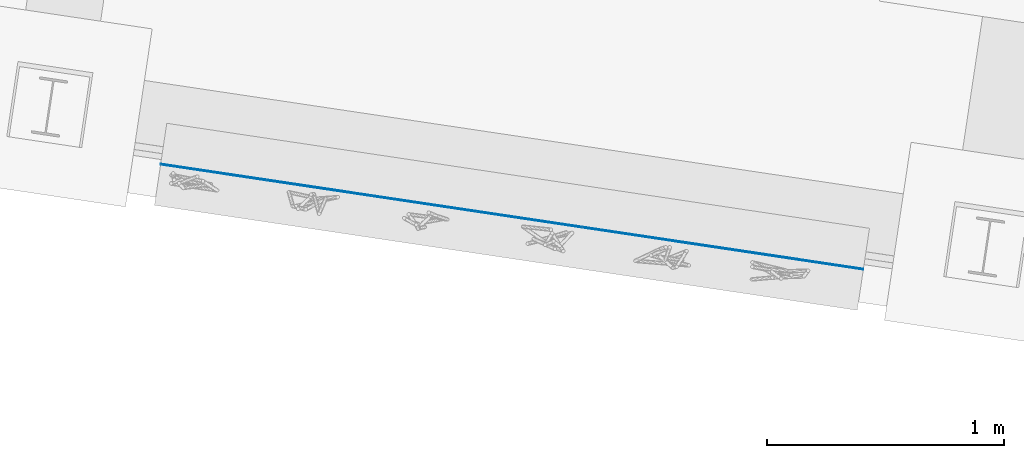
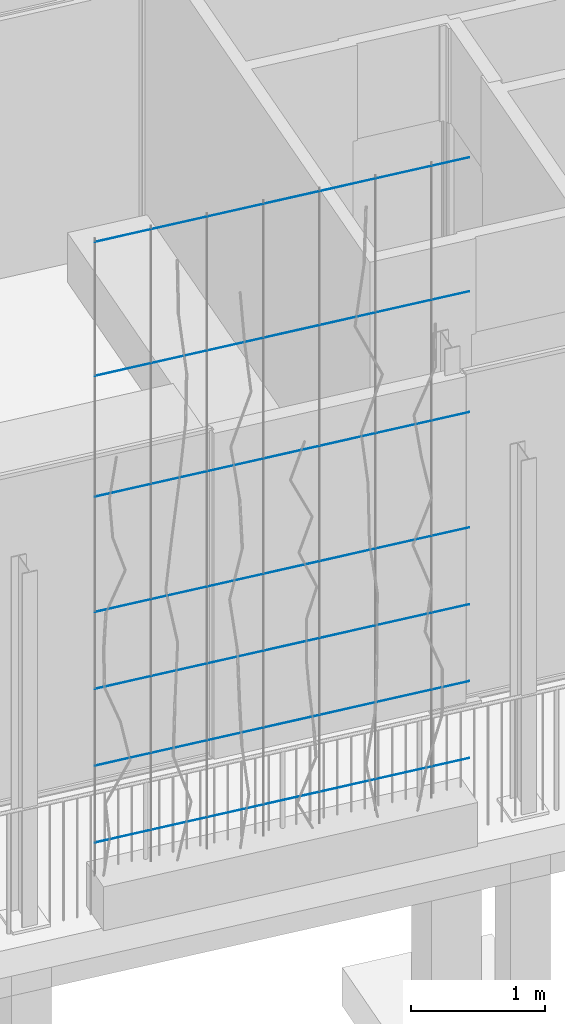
# One storey, part 52 of 143: 7 members, 1 element without a shape of its own.
"""IFC4 building model written with IfcOpenShell, lengths in metres."""

import ifcopenshell
import ifcopenshell.guid

model = None  # the IFC model being written
_history = None  # IfcOwnerHistory: only IFC2X3 demands one
_inside = {}  # id of a spatial element -> (the spatial element, [elements in it])
_under = {}  # id of a project, library or spatial element -> (it, [spatial elements below it])
_declared = {}  # id of a project -> (the project, [libraries it declares])
_typed = {}  # id of a type object -> (the type object, [elements of that type])
_made_of = {}  # id of a material, layer set ... -> (it, [elements and type objects made of it])


def new_model(schema):
    """Start an empty IFC model of exactly this schema.

    Asked for "IFC4X3", IfcOpenShell would pick the latest addendum, in which some entities
    have other attributes; the version numbers below select the first issue.
    IFC2X3 requires an IfcOwnerHistory on every rooted entity: one is made here for all.
    """
    global model, _history
    if schema == "IFC4X3":
        model = ifcopenshell.file(schema_version=(4, 3, 0, 0))
    else:
        model = ifcopenshell.file(schema=schema)
    _inside.clear()
    _under.clear()
    _declared.clear()
    _typed.clear()
    _made_of.clear()
    _history = None
    if model.schema == "IFC2X3":
        org = make("IfcOrganization", Name="unknown")
        user = make(
            "IfcPersonAndOrganization",
            ThePerson=make("IfcPerson", FamilyName="unknown"),
            TheOrganization=org,
        )
        app = make(
            "IfcApplication",
            ApplicationDeveloper=org,
            Version="unknown",
            ApplicationFullName="unknown",
            ApplicationIdentifier="unknown",
        )
        _history = make(
            "IfcOwnerHistory",
            OwningUser=user,
            OwningApplication=app,
            ChangeAction="ADDED",
            CreationDate=0,
        )
    return model


def make(cls, **values):
    """One entity of the class cls with the attributes given. An attribute that is None is left unset."""
    return model.create_entity(
        cls, **{name: value for name, value in values.items() if value is not None}
    )


def rooted(cls, **values):
    """An entity with a GlobalId (a new one), such as an element, a storey or a relation."""
    return make(cls, GlobalId=ifcopenshell.guid.new(), OwnerHistory=_history, **values)


def si_unit(unit_type, name, prefix=None):
    """IfcSIUnit, for example si_unit("LENGTHUNIT", "METRE", prefix="MILLI")."""
    return make("IfcSIUnit", UnitType=unit_type, Prefix=prefix, Name=name)


def assignment(units):
    """IfcUnitAssignment: the units of a project."""
    return None if units is None else make("IfcUnitAssignment", Units=units)


def point(xyz):
    """IfcCartesianPoint."""
    return None if xyz is None else make("IfcCartesianPoint", Coordinates=xyz)


def direction(xyz):
    """IfcDirection."""
    return None if xyz is None else make("IfcDirection", DirectionRatios=xyz)


def frame(location, z_axis=None, x_axis=None):
    """IfcAxis2Placement3D, a coordinate frame: its origin and axes. An axis left out is left unset."""
    return make(
        "IfcAxis2Placement3D",
        Location=point(location),
        Axis=direction(z_axis),
        RefDirection=direction(x_axis),
    )


def origin_with_axes():
    """The frame at (0, 0, 0) with the z axis (0, 0, 1) and the x axis (1, 0, 0) written out."""
    return frame((0.0, 0.0, 0.0), z_axis=(0.0, 0.0, 1.0), x_axis=(1.0, 0.0, 0.0))


def place(relative_to, where):
    """IfcLocalPlacement: puts the frame where relative to a parent placement (None: the world)."""
    return make(
        "IfcLocalPlacement", PlacementRelTo=relative_to, RelativePlacement=where
    )


def context(
    kind, dimensions, precision=None, world=None, true_north=None, identifier=None
):
    """IfcGeometricRepresentationContext, for example the 3D "Model" context."""
    return make(
        "IfcGeometricRepresentationContext",
        ContextIdentifier=identifier,
        ContextType=kind,
        CoordinateSpaceDimension=dimensions,
        Precision=precision,
        WorldCoordinateSystem=world,
        TrueNorth=true_north,
    )


def subcontext(parent, identifier, kind, view, scale=None):
    """IfcGeometricRepresentationSubContext, for example "Body" below "Model"."""
    return make(
        "IfcGeometricRepresentationSubContext",
        ContextIdentifier=identifier,
        ContextType=kind,
        ParentContext=parent,
        TargetScale=scale,
        TargetView=view,
    )


def project(units=None, contexts=None):
    """IfcProject with its units and contexts."""
    return rooted(
        "IfcProject",
        Name="project",
        RepresentationContexts=contexts,
        UnitsInContext=assignment(units),
    )


def spatial(cls, under=None, at=None, **own):
    """A site, building, storey or space (cls), placed at a placement, below another one or the project."""
    s = rooted(cls, ObjectPlacement=at, **own)
    if under is not None:
        _under.setdefault(under.id(), (under, []))[1].append(s)
    return s


def profile(cls, at=None, kind="AREA", **sizes):
    """A parametric profile (cls). Its sizes go by their IFC names, for example OverallWidth=200.0."""
    return make(cls, ProfileType=kind, Position=at, **sizes)


def circle(**sizes):
    """IfcCircleProfileDef."""
    return profile("IfcCircleProfileDef", **sizes)


def extrude(swept, where, along, depth):
    """IfcExtrudedAreaSolid: the profile swept, set in the frame where, extruded along a direction by depth."""
    return make(
        "IfcExtrudedAreaSolid",
        SweptArea=swept,
        Position=where,
        ExtrudedDirection=direction(along),
        Depth=depth,
    )


def shape(context_of_items, identifier, shape_type, items):
    """IfcShapeRepresentation: the items that make up one representation, for example the "Body"."""
    return make(
        "IfcShapeRepresentation",
        ContextOfItems=context_of_items,
        RepresentationIdentifier=identifier,
        RepresentationType=shape_type,
        Items=items,
    )


def material(Name=None, Category=None):
    """IfcMaterial."""
    return make("IfcMaterial", Name=Name, Category=Category)


def material_profile(
    of_material, cross_section, Name=None, Category=None, Priority=None
):
    """IfcMaterialProfile: a cross section and its material."""
    return make(
        "IfcMaterialProfile",
        Name=Name,
        Material=of_material,
        Profile=cross_section,
        Priority=Priority,
        Category=Category,
    )


def profile_set(profiles, Name=None, composite=None):
    """IfcMaterialProfileSet."""
    return make(
        "IfcMaterialProfileSet",
        Name=Name,
        MaterialProfiles=profiles,
        CompositeProfile=composite,
    )


def profile_usage(for_profile_set, cardinal=None, extent=None):
    """IfcMaterialProfileSetUsage: how a profile set lies along its element."""
    return make(
        "IfcMaterialProfileSetUsage",
        ForProfileSet=for_profile_set,
        CardinalPoint=cardinal,
        ReferenceExtent=extent,
    )


def made_of(thing, what):
    """Note that an element or type object is made of a material, layer set ...; save() writes the relation."""
    if what is not None:
        _made_of.setdefault(what.id(), (what, []))[1].append(thing)
    return thing


def type_object(cls, material=None, **own):
    """A type object (cls), such as IfcWallType, which elements share."""
    return made_of(rooted(cls, **own), material)


def element(
    cls,
    number,
    at=None,
    inside=None,
    cuts=None,
    type_object=None,
    material=None,
    context=None,
    identifier="Body",
    shape_type=None,
    held_by="IfcProductDefinitionShape",
    body=None,
    shapes=None,
    **own,
):
    """One element of the class cls, such as IfcWall. Its Tag is "e" and its number.

    at: its placement. inside: the storey or other place that contains it. cuts: it is an
    opening in that element (IfcRelVoidsElement). A single representation is given by context,
    identifier, shape_type and body (its items); several are given by shapes. held_by: the class
    of the entity that holds the representations. save() writes the other relations.
    """
    e = rooted(cls, Tag="e%d" % number, ObjectPlacement=at, **own)
    if body is not None:
        shapes = [shape(context, identifier, shape_type, body)]
    if shapes is not None:
        e.Representation = make(held_by, Representations=shapes)
    if inside is not None:
        _inside.setdefault(inside.id(), (inside, []))[1].append(e)
    if cuts is not None:
        rooted(
            "IfcRelVoidsElement", RelatingBuildingElement=cuts, RelatedOpeningElement=e
        )
    if type_object is not None:
        _typed.setdefault(type_object.id(), (type_object, []))[1].append(e)
    return made_of(e, material)


def aggregate(whole, parts):
    """IfcRelAggregates: a whole, such as a stair, and the parts it consists of."""
    return rooted("IfcRelAggregates", RelatingObject=whole, RelatedObjects=parts)


def save(model, path):
    """Write the relations noted so far, then the file.

    IfcRelAggregates (storeys below a building ...), IfcRelContainedInSpatialStructure (elements
    in a storey), IfcRelDefinesByType, IfcRelAssociatesMaterial and IfcRelDeclares: one each for
    every whole, place, type object, material and project.
    """
    for whole, parts in _under.values():
        aggregate(whole, parts)
    for where, things in _inside.values():
        rooted(
            "IfcRelContainedInSpatialStructure",
            RelatedElements=things,
            RelatingStructure=where,
        )
    for kind, things in _typed.values():
        rooted("IfcRelDefinesByType", RelatedObjects=things, RelatingType=kind)
    for what, things in _made_of.values():
        rooted("IfcRelAssociatesMaterial", RelatedObjects=things, RelatingMaterial=what)
    for by, libraries in _declared.values():
        rooted("IfcRelDeclares", RelatingContext=by, RelatedDefinitions=libraries)
    model.write(path)


model = new_model("IFC4")

# Units and contexts
model_context = context("Model", 3, precision=1e-05, world=origin_with_axes(), true_north=direction((0.0, 1.0)))
body_context = subcontext(model_context, "Body", "Model", "MODEL_VIEW")
ifc_project = project(units=[si_unit("VOLUMEUNIT", "CUBIC_METRE"), si_unit("LENGTHUNIT", "METRE"), si_unit("AREAUNIT", "SQUARE_METRE")], contexts=[model_context])

# Site, building, storey
site_placement = place(None, origin_with_axes())
site = spatial("IfcSite", under=ifc_project, at=site_placement, Name="Lares · Rua das Mercês · artigo 4771")
building_placement = place(site_placement, frame((15.0, 9.7, 15.8), z_axis=(0.0, 0.0, 1.0), x_axis=(0.989015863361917, -0.147809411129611, 0.0)))
building = spatial("IfcBuilding", under=site, at=building_placement, Name="Casa Sobreposta")
storey_placement = place(building_placement, origin_with_axes())
storey = spatial("IfcBuildingStorey", under=building, at=storey_placement, Name="00 · Habitação e estacionamento", Elevation=15.8)

# Assembly, members
assembly_placement = place(storey_placement, origin_with_axes())
assembly = element("IfcElementAssembly", 1, at=assembly_placement, inside=storey, Name="Fachada sul e pátio · estrutura e trepadeiras", ObjectType="LIVING_SHADE_TRELLIS", PredefinedType="USERDEFINED")
ifc_material = material(Name="Aço galvanizado / Stahl verzinkt", Category="steel")
ifc_material_profile = material_profile(ifc_material, circle(Radius=0.002))
ifc_profile_set = profile_set([ifc_material_profile], Name="D0.004")
ifc_profile_usage_1 = profile_usage(ifc_profile_set)
member_type = type_object("IfcMemberType", Name="D0.004 / galvanized", PredefinedType="NOTDEFINED", material=ifc_profile_set)
member_1_placement = place(assembly_placement, frame((4.5, -1.61, 0.65), z_axis=(1.0, 0.0, 0.0), x_axis=(0.0, -1.0, 0.0)))
member_1 = element("IfcMember", 2, at=member_1_placement, type_object=member_type, material=ifc_profile_usage_1, Name="Trepadeiras · fio horizontal", context=body_context, shape_type="SweptSolid", body=[
    extrude(circle(Radius=0.002), origin_with_axes(), (0.0, 0.0, 1.0), 3.0),
])
ifc_profile_usage_2 = profile_usage(ifc_profile_set)
member_2_placement = place(assembly_placement, frame((4.5, -1.61, 1.35), z_axis=(1.0, 0.0, 0.0), x_axis=(0.0, -1.0, 0.0)))
member_2 = element("IfcMember", 3, at=member_2_placement, type_object=member_type, material=ifc_profile_usage_2, Name="Trepadeiras · fio horizontal", context=body_context, shape_type="SweptSolid", body=[
    extrude(circle(Radius=0.002), origin_with_axes(), (0.0, 0.0, 1.0), 3.0),
])
ifc_profile_usage_3 = profile_usage(ifc_profile_set)
member_3_placement = place(assembly_placement, frame((4.5, -1.61, 2.05), z_axis=(1.0, 0.0, 0.0), x_axis=(0.0, -1.0, 0.0)))
member_3 = element("IfcMember", 4, at=member_3_placement, type_object=member_type, material=ifc_profile_usage_3, Name="Trepadeiras · fio horizontal", context=body_context, shape_type="SweptSolid", body=[
    extrude(circle(Radius=0.002), origin_with_axes(), (0.0, 0.0, 1.0), 3.0),
])
ifc_profile_usage_4 = profile_usage(ifc_profile_set)
member_4_placement = place(assembly_placement, frame((4.5, -1.61, 2.75), z_axis=(1.0, 0.0, 0.0), x_axis=(0.0, -1.0, 0.0)))
member_4 = element("IfcMember", 5, at=member_4_placement, type_object=member_type, material=ifc_profile_usage_4, Name="Trepadeiras · fio horizontal", context=body_context, shape_type="SweptSolid", body=[
    extrude(circle(Radius=0.002), origin_with_axes(), (0.0, 0.0, 1.0), 3.0),
])
ifc_profile_usage_5 = profile_usage(ifc_profile_set)
member_5_placement = place(assembly_placement, frame((4.5, -1.61, 3.8), z_axis=(1.0, 0.0, 0.0), x_axis=(0.0, -1.0, 0.0)))
member_5 = element("IfcMember", 6, at=member_5_placement, type_object=member_type, material=ifc_profile_usage_5, Name="Trepadeiras · fio horizontal", context=body_context, shape_type="SweptSolid", body=[
    extrude(circle(Radius=0.002), origin_with_axes(), (0.0, 0.0, 1.0), 3.0),
])
ifc_profile_usage_6 = profile_usage(ifc_profile_set)
member_6_placement = place(assembly_placement, frame((4.5, -1.61, 4.9), z_axis=(1.0, 0.0, 0.0), x_axis=(0.0, -1.0, 0.0)))
member_6 = element("IfcMember", 7, at=member_6_placement, type_object=member_type, material=ifc_profile_usage_6, Name="Trepadeiras · fio horizontal", context=body_context, shape_type="SweptSolid", body=[
    extrude(circle(Radius=0.002), origin_with_axes(), (0.0, 0.0, 1.0), 3.0),
])
ifc_profile_usage_7 = profile_usage(ifc_profile_set)
member_7_placement = place(assembly_placement, frame((4.5, -1.61, 6.12), z_axis=(1.0, 0.0, 0.0), x_axis=(0.0, -1.0, 0.0)))
member_7 = element("IfcMember", 8, at=member_7_placement, type_object=member_type, material=ifc_profile_usage_7, Name="Trepadeiras · fio horizontal", context=body_context, shape_type="SweptSolid", body=[
    extrude(circle(Radius=0.002), origin_with_axes(), (0.0, 0.0, 1.0), 3.0),
])
aggregate(assembly, [member_1, member_2, member_3, member_4, member_5, member_6, member_7])

save(model, "model.ifc")
